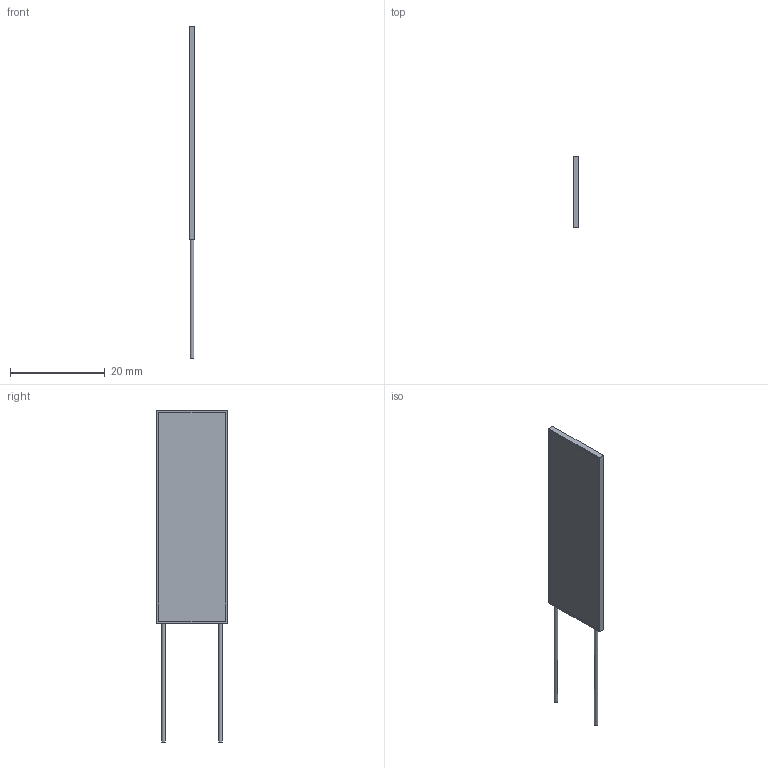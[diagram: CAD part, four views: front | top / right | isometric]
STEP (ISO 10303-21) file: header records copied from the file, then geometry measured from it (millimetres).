
FILE_DESCRIPTION(/* description */ ('STEP AP242','CAx-IF Rec.Pracs.---Representation and Presentation of Product Manufacturing Information (PMI)---4.0---2014-10-13','CAx-IF Rec.Pracs.---3D Tessellated Geometry---0.4---2014-09-14','2;1'),/* implementation_level */ '2;1');
FILE_NAME(/* name */ '6616b27797c14266a602019f',/* time_stamp */ '2024-04-10T15:38:32Z',/* author */ (''),/* organization */ (''),/* preprocessor_version */ 'ST-DEVELOPER v20',/* originating_system */ ' ',/* authorisation */ ' ');
FILE_SCHEMA (('AP242_MANAGED_MODEL_BASED_3D_ENGINEERING_MIM_LF { 1 0 10303 442 1 1 4 }'));
Length unit declared in the file: metre
Products named in the file (1): Part 1
Bounding box: 1.2 x 15 x 70 mm (x, y, z)
Volume: 770.5 mm3; surface area: 1623.4 mm2
Topology: 1 solids, 1 shells, 15 faces, 31 edges, 21 vertices
Faces by surface type: plane 13, cylinder 2
Full cylindrical faces by diameter (mm): 0.75 x2
Entity records: 520 total; most frequent: DIRECTION 64, CARTESIAN_POINT 64, ORIENTED_EDGE 56, EDGE_CURVE 28, LINE 24, VECTOR 24, VERTEX_POINT 20, EDGE_LOOP 20
